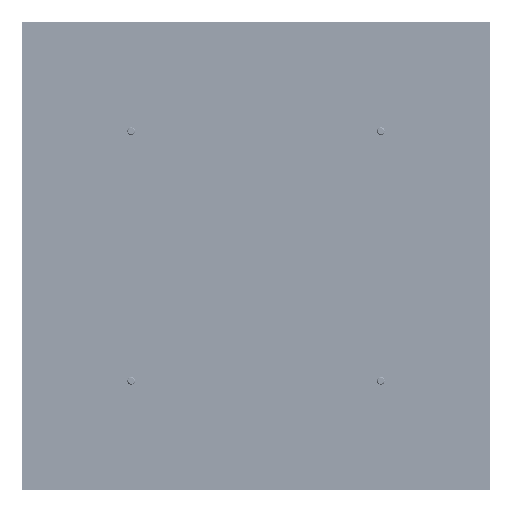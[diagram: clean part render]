
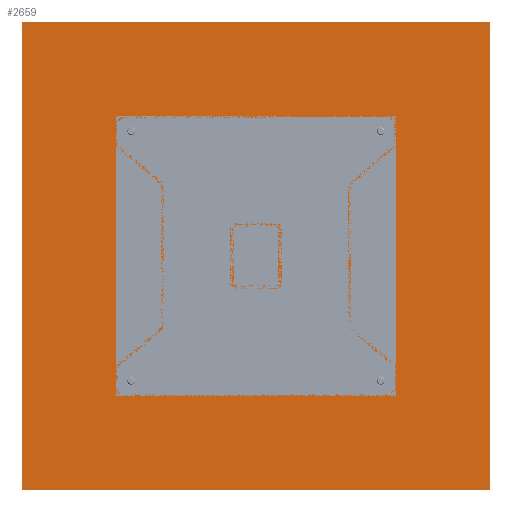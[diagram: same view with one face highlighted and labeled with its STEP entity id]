
A CAD part, front view. The second image highlights one B-rep face of the part: STEP entity #2659.
In plain terms, the highlighted planar face has unit normal (0, -1, 0).
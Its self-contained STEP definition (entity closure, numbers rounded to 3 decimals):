
#2240=DIRECTION('',(0.,0.,1.));
#2241=VECTOR('',#2240,150.);
#2242=CARTESIAN_POINT('',(-75.,-1.575,-75.));
#2243=LINE('',#2242,#2241);
#2244=DIRECTION('',(1.,0.,0.));
#2245=VECTOR('',#2244,150.);
#2246=CARTESIAN_POINT('',(-75.,-1.575,75.));
#2247=LINE('',#2246,#2245);
#2248=DIRECTION('',(0.,0.,-1.));
#2249=VECTOR('',#2248,150.);
#2250=CARTESIAN_POINT('',(75.,-1.575,75.));
#2251=LINE('',#2250,#2249);
#2252=DIRECTION('',(-1.,0.,0.));
#2253=VECTOR('',#2252,150.);
#2254=CARTESIAN_POINT('',(75.,-1.575,-75.));
#2255=LINE('',#2254,#2253);
#2256=CARTESIAN_POINT('',(-18.,-1.575,-30.6));
#2257=DIRECTION('',(0.,1.,0.));
#2258=DIRECTION('',(1.,0.,0.));
#2259=AXIS2_PLACEMENT_3D('',#2256,#2257,#2258);
#2261=CARTESIAN_POINT('',(-18.,-1.575,-30.6));
#2262=DIRECTION('',(0.,1.,0.));
#2263=DIRECTION('',(-1.,0.,0.));
#2264=AXIS2_PLACEMENT_3D('',#2261,#2262,#2263);
#2266=CARTESIAN_POINT('',(18.,-1.575,-30.6));
#2267=DIRECTION('',(0.,1.,0.));
#2268=DIRECTION('',(1.,0.,0.));
#2269=AXIS2_PLACEMENT_3D('',#2266,#2267,#2268);
#2271=CARTESIAN_POINT('',(18.,-1.575,-30.6));
#2272=DIRECTION('',(0.,1.,0.));
#2273=DIRECTION('',(-1.,0.,0.));
#2274=AXIS2_PLACEMENT_3D('',#2271,#2272,#2273);
#2276=CARTESIAN_POINT('',(18.,-1.575,30.6));
#2277=DIRECTION('',(0.,1.,0.));
#2278=DIRECTION('',(1.,0.,0.));
#2279=AXIS2_PLACEMENT_3D('',#2276,#2277,#2278);
#2281=CARTESIAN_POINT('',(18.,-1.575,30.6));
#2282=DIRECTION('',(0.,1.,0.));
#2283=DIRECTION('',(-1.,0.,0.));
#2284=AXIS2_PLACEMENT_3D('',#2281,#2282,#2283);
#2286=CARTESIAN_POINT('',(-18.,-1.575,30.6));
#2287=DIRECTION('',(0.,1.,0.));
#2288=DIRECTION('',(1.,0.,0.));
#2289=AXIS2_PLACEMENT_3D('',#2286,#2287,#2288);
#2291=CARTESIAN_POINT('',(-18.,-1.575,30.6));
#2292=DIRECTION('',(0.,1.,0.));
#2293=DIRECTION('',(-1.,0.,0.));
#2294=AXIS2_PLACEMENT_3D('',#2291,#2292,#2293);
#2296=CARTESIAN_POINT('',(40.,-1.575,-40.));
#2297=DIRECTION('',(0.,1.,0.));
#2298=DIRECTION('',(1.,0.,0.));
#2299=AXIS2_PLACEMENT_3D('',#2296,#2297,#2298);
#2301=CARTESIAN_POINT('',(40.,-1.575,-40.));
#2302=DIRECTION('',(0.,1.,0.));
#2303=DIRECTION('',(-1.,0.,0.));
#2304=AXIS2_PLACEMENT_3D('',#2301,#2302,#2303);
#2306=CARTESIAN_POINT('',(40.,-1.575,40.));
#2307=DIRECTION('',(0.,1.,0.));
#2308=DIRECTION('',(1.,0.,0.));
#2309=AXIS2_PLACEMENT_3D('',#2306,#2307,#2308);
#2311=CARTESIAN_POINT('',(40.,-1.575,40.));
#2312=DIRECTION('',(0.,1.,0.));
#2313=DIRECTION('',(-1.,0.,0.));
#2314=AXIS2_PLACEMENT_3D('',#2311,#2312,#2313);
#2316=CARTESIAN_POINT('',(-40.,-1.575,40.));
#2317=DIRECTION('',(0.,1.,0.));
#2318=DIRECTION('',(1.,0.,0.));
#2319=AXIS2_PLACEMENT_3D('',#2316,#2317,#2318);
#2321=CARTESIAN_POINT('',(-40.,-1.575,40.));
#2322=DIRECTION('',(0.,1.,0.));
#2323=DIRECTION('',(-1.,0.,0.));
#2324=AXIS2_PLACEMENT_3D('',#2321,#2322,#2323);
#2326=CARTESIAN_POINT('',(-40.,-1.575,-40.));
#2327=DIRECTION('',(0.,1.,0.));
#2328=DIRECTION('',(1.,0.,0.));
#2329=AXIS2_PLACEMENT_3D('',#2326,#2327,#2328);
#2331=CARTESIAN_POINT('',(-40.,-1.575,-40.));
#2332=DIRECTION('',(0.,1.,0.));
#2333=DIRECTION('',(-1.,0.,0.));
#2334=AXIS2_PLACEMENT_3D('',#2331,#2332,#2333);
#2408=CARTESIAN_POINT('',(-75.,-1.575,-75.));
#2409=CARTESIAN_POINT('',(-75.,-1.575,75.));
#2410=VERTEX_POINT('',#2408);
#2411=VERTEX_POINT('',#2409);
#2412=CARTESIAN_POINT('',(75.,-1.575,75.));
#2413=VERTEX_POINT('',#2412);
#2414=CARTESIAN_POINT('',(75.,-1.575,-75.));
#2415=VERTEX_POINT('',#2414);
#2432=CARTESIAN_POINT('',(-15.985,-1.575,-30.6));
#2433=CARTESIAN_POINT('',(-20.015,-1.575,-30.6));
#2434=VERTEX_POINT('',#2432);
#2435=VERTEX_POINT('',#2433);
#2436=CARTESIAN_POINT('',(20.015,-1.575,-30.6));
#2437=CARTESIAN_POINT('',(15.985,-1.575,-30.6));
#2438=VERTEX_POINT('',#2436);
#2439=VERTEX_POINT('',#2437);
#2440=CARTESIAN_POINT('',(20.015,-1.575,30.6));
#2441=CARTESIAN_POINT('',(15.985,-1.575,30.6));
#2442=VERTEX_POINT('',#2440);
#2443=VERTEX_POINT('',#2441);
#2444=CARTESIAN_POINT('',(-15.985,-1.575,30.6));
#2445=CARTESIAN_POINT('',(-20.015,-1.575,30.6));
#2446=VERTEX_POINT('',#2444);
#2447=VERTEX_POINT('',#2445);
#2464=CARTESIAN_POINT('',(42.015,-1.575,-40.));
#2465=CARTESIAN_POINT('',(37.985,-1.575,-40.));
#2466=VERTEX_POINT('',#2464);
#2467=VERTEX_POINT('',#2465);
#2468=CARTESIAN_POINT('',(42.015,-1.575,40.));
#2469=CARTESIAN_POINT('',(37.985,-1.575,40.));
#2470=VERTEX_POINT('',#2468);
#2471=VERTEX_POINT('',#2469);
#2472=CARTESIAN_POINT('',(-37.985,-1.575,40.));
#2473=CARTESIAN_POINT('',(-42.015,-1.575,40.));
#2474=VERTEX_POINT('',#2472);
#2475=VERTEX_POINT('',#2473);
#2476=CARTESIAN_POINT('',(-37.985,-1.575,-40.));
#2477=CARTESIAN_POINT('',(-42.015,-1.575,-40.));
#2478=VERTEX_POINT('',#2476);
#2479=VERTEX_POINT('',#2477);
#2600=CARTESIAN_POINT('',(0.,-1.575,0.));
#2601=DIRECTION('',(0.,1.,0.));
#2602=DIRECTION('',(1.,0.,0.));
#2603=AXIS2_PLACEMENT_3D('',#2600,#2601,#2602);
#2604=PLANE('',#2603);
#2605=ORIENTED_EDGE('',*,*,#2552,.T.);
#2606=ORIENTED_EDGE('',*,*,#2567,.T.);
#2607=ORIENTED_EDGE('',*,*,#2581,.T.);
#2608=ORIENTED_EDGE('',*,*,#2594,.T.);
#2609=EDGE_LOOP('',(#2605,#2606,#2607,#2608));
#2610=FACE_OUTER_BOUND('',#2609,.F.);
#2612=ORIENTED_EDGE('',*,*,#2611,.F.);
#2614=ORIENTED_EDGE('',*,*,#2613,.F.);
#2615=EDGE_LOOP('',(#2612,#2614));
#2616=FACE_BOUND('',#2615,.F.);
#2618=ORIENTED_EDGE('',*,*,#2617,.F.);
#2620=ORIENTED_EDGE('',*,*,#2619,.F.);
#2621=EDGE_LOOP('',(#2618,#2620));
#2622=FACE_BOUND('',#2621,.F.);
#2624=ORIENTED_EDGE('',*,*,#2623,.F.);
#2626=ORIENTED_EDGE('',*,*,#2625,.F.);
#2627=EDGE_LOOP('',(#2624,#2626));
#2628=FACE_BOUND('',#2627,.F.);
#2630=ORIENTED_EDGE('',*,*,#2629,.F.);
#2632=ORIENTED_EDGE('',*,*,#2631,.F.);
#2633=EDGE_LOOP('',(#2630,#2632));
#2634=FACE_BOUND('',#2633,.F.);
#2636=ORIENTED_EDGE('',*,*,#2635,.F.);
#2638=ORIENTED_EDGE('',*,*,#2637,.F.);
#2639=EDGE_LOOP('',(#2636,#2638));
#2640=FACE_BOUND('',#2639,.F.);
#2642=ORIENTED_EDGE('',*,*,#2641,.F.);
#2644=ORIENTED_EDGE('',*,*,#2643,.F.);
#2645=EDGE_LOOP('',(#2642,#2644));
#2646=FACE_BOUND('',#2645,.F.);
#2648=ORIENTED_EDGE('',*,*,#2647,.F.);
#2650=ORIENTED_EDGE('',*,*,#2649,.F.);
#2651=EDGE_LOOP('',(#2648,#2650));
#2652=FACE_BOUND('',#2651,.F.);
#2654=ORIENTED_EDGE('',*,*,#2653,.F.);
#2656=ORIENTED_EDGE('',*,*,#2655,.F.);
#2657=EDGE_LOOP('',(#2654,#2656));
#2658=FACE_BOUND('',#2657,.F.);
#2659=ADVANCED_FACE('',(#2610,#2616,#2622,#2628,#2634,#2640,#2646,#2652,#2658),
#2604,.F.);
#2260=CIRCLE('',#2259,2.015);
#2265=CIRCLE('',#2264,2.015);
#2270=CIRCLE('',#2269,2.015);
#2275=CIRCLE('',#2274,2.015);
#2280=CIRCLE('',#2279,2.015);
#2285=CIRCLE('',#2284,2.015);
#2290=CIRCLE('',#2289,2.015);
#2295=CIRCLE('',#2294,2.015);
#2300=CIRCLE('',#2299,2.015);
#2305=CIRCLE('',#2304,2.015);
#2310=CIRCLE('',#2309,2.015);
#2315=CIRCLE('',#2314,2.015);
#2320=CIRCLE('',#2319,2.015);
#2325=CIRCLE('',#2324,2.015);
#2330=CIRCLE('',#2329,2.015);
#2335=CIRCLE('',#2334,2.015);
#2552=EDGE_CURVE('',#2410,#2411,#2243,.T.);
#2567=EDGE_CURVE('',#2411,#2413,#2247,.T.);
#2581=EDGE_CURVE('',#2413,#2415,#2251,.T.);
#2594=EDGE_CURVE('',#2415,#2410,#2255,.T.);
#2611=EDGE_CURVE('',#2434,#2435,#2260,.T.);
#2613=EDGE_CURVE('',#2435,#2434,#2265,.T.);
#2617=EDGE_CURVE('',#2438,#2439,#2270,.T.);
#2619=EDGE_CURVE('',#2439,#2438,#2275,.T.);
#2623=EDGE_CURVE('',#2442,#2443,#2280,.T.);
#2625=EDGE_CURVE('',#2443,#2442,#2285,.T.);
#2629=EDGE_CURVE('',#2446,#2447,#2290,.T.);
#2631=EDGE_CURVE('',#2447,#2446,#2295,.T.);
#2635=EDGE_CURVE('',#2466,#2467,#2300,.T.);
#2637=EDGE_CURVE('',#2467,#2466,#2305,.T.);
#2641=EDGE_CURVE('',#2470,#2471,#2310,.T.);
#2643=EDGE_CURVE('',#2471,#2470,#2315,.T.);
#2647=EDGE_CURVE('',#2474,#2475,#2320,.T.);
#2649=EDGE_CURVE('',#2475,#2474,#2325,.T.);
#2653=EDGE_CURVE('',#2478,#2479,#2330,.T.);
#2655=EDGE_CURVE('',#2479,#2478,#2335,.T.);
